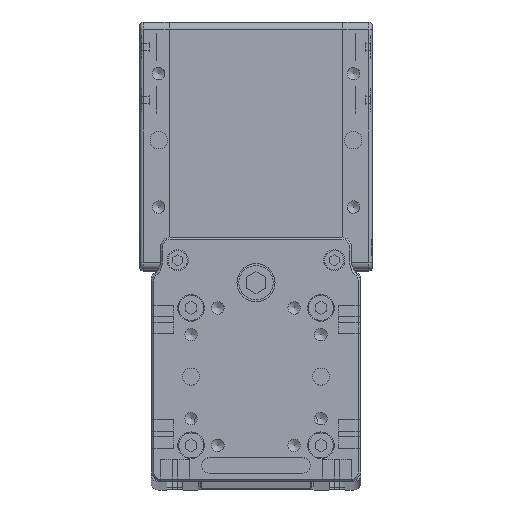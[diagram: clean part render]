
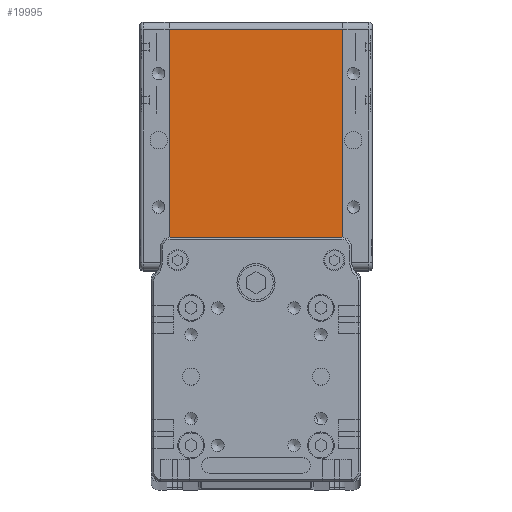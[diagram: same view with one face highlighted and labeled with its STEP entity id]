
A CAD part, top view. The second image highlights one B-rep face of the part: STEP entity #19995.
In plain terms, the highlighted planar face has unit normal (0, 0, 1) as drawn and (1, 0, 0) by its records, which use the part's own axes.
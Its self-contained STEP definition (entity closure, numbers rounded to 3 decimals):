
#1365=LINE('',#28790,#2611);
#1367=LINE('',#28794,#2613);
#1383=LINE('',#28960,#2629);
#1388=LINE('',#28978,#2634);
#1393=LINE('',#28987,#2639);
#1394=LINE('',#28989,#2640);
#2611=VECTOR('',#24493,1000.);
#2613=VECTOR('',#24497,1000.);
#2629=VECTOR('',#24693,1000.);
#2634=VECTOR('',#24708,1000.);
#2639=VECTOR('',#24721,1000.);
#2640=VECTOR('',#24724,1000.);
#5574=ORIENTED_EDGE('',*,*,#8080,.F.);
#5575=ORIENTED_EDGE('',*,*,#8085,.F.);
#5576=ORIENTED_EDGE('',*,*,#8071,.T.);
#5577=ORIENTED_EDGE('',*,*,#7985,.T.);
#5578=ORIENTED_EDGE('',*,*,#8086,.T.);
#5579=ORIENTED_EDGE('',*,*,#7987,.T.);
#7985=EDGE_CURVE('',#9479,#9478,#1365,.T.);
#7987=EDGE_CURVE('',#9480,#9481,#1367,.T.);
#8071=EDGE_CURVE('',#9540,#9479,#1383,.T.);
#8080=EDGE_CURVE('',#9547,#9481,#1388,.T.);
#8085=EDGE_CURVE('',#9540,#9547,#1393,.T.);
#8086=EDGE_CURVE('',#9478,#9480,#1394,.T.);
#9478=VERTEX_POINT('',#28789);
#9479=VERTEX_POINT('',#28791);
#9480=VERTEX_POINT('',#28795);
#9481=VERTEX_POINT('',#28796);
#9540=VERTEX_POINT('',#28961);
#9547=VERTEX_POINT('',#28977);
#11177=EDGE_LOOP('',(#5574,#5575,#5576,#5577,#5578,#5579));
#12377=FACE_BOUND('',#11177,.T.);
#13230=PLANE('',#21352);
#19995=ADVANCED_FACE('',(#12377),#13230,.T.);
#21352=AXIS2_PLACEMENT_3D('',#28988,#24722,#24723);
#24493=DIRECTION('',(0.,0.,-1.));
#24497=DIRECTION('',(0.,0.,-1.));
#24693=DIRECTION('',(0.,-1.,0.));
#24708=DIRECTION('',(0.,-1.,0.));
#24721=DIRECTION('',(0.,0.,-1.));
#24722=DIRECTION('',(1.,0.,0.));
#24723=DIRECTION('',(0.,0.,-1.));
#24724=DIRECTION('',(0.,0.,-1.));
#28789=CARTESIAN_POINT('',(149.75,-59.,35.));
#28790=CARTESIAN_POINT('',(149.75,-59.,45.5));
#28791=CARTESIAN_POINT('',(149.75,-59.,45.5));
#28794=CARTESIAN_POINT('',(149.75,-59.,45.5));
#28795=CARTESIAN_POINT('',(149.75,-59.,-35.));
#28796=CARTESIAN_POINT('',(149.75,-59.,-45.5));
#28960=CARTESIAN_POINT('',(149.75,61.2,45.5));
#28961=CARTESIAN_POINT('',(149.75,61.2,45.5));
#28977=CARTESIAN_POINT('',(149.75,61.2,-45.5));
#28978=CARTESIAN_POINT('',(149.75,61.2,-45.5));
#28987=CARTESIAN_POINT('',(149.75,61.2,45.5));
#28988=CARTESIAN_POINT('',(149.75,61.2,45.5));
#28989=CARTESIAN_POINT('',(149.75,-59.,45.5));
